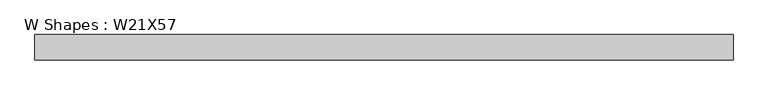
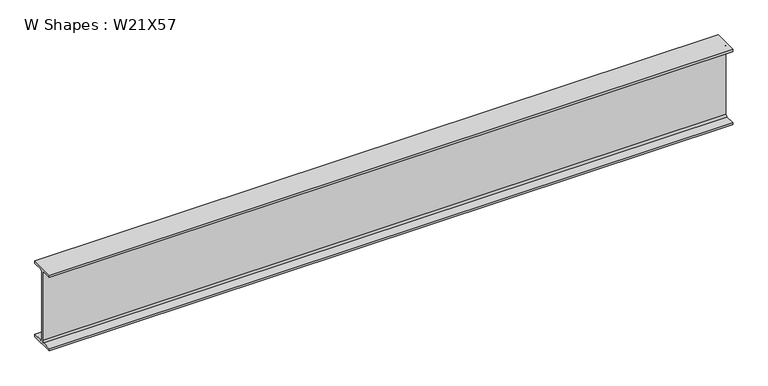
"""IFC4 building model written with IfcOpenShell, lengths in millimetres: beam geometry, W Shapes : W21X57."""

from ifc_helpers import new_model, si_unit, point, frame, frame_2d, origin, place, context, project, spatial, polyline, circle_curve, trimmed, segment, composite_curve, outline, extrude, source, transform, mapped, element, save


def w_shapes_w21x57_f1182905(model_context):
    return source(origin(), model_context, "Body", "SweptSolid", [
        extrude(outline(composite_curve([segment(polyline([(83.312, -251.46), (83.312, -267.97), (-83.312, -267.97), (-83.312, -251.46), (-17.907, -251.46)]), True, "CONTINUOUS"), segment(trimmed(circle_curve(frame_2d((-17.907, -238.76)), 12.7), [point((-17.907, -251.46))], [point((-5.207, -238.76))], True, "CARTESIAN"), True, "CONTINUOUS"), segment(polyline([(-5.207, -238.76), (-5.207, 238.76)]), True, "CONTINUOUS"), segment(trimmed(circle_curve(frame_2d((-17.907, 238.76)), 12.7), [point((-5.207, 238.76))], [point((-17.907, 251.46))], True, "CARTESIAN"), True, "CONTINUOUS"), segment(polyline([(-17.907, 251.46), (-83.312, 251.46), (-83.312, 267.97), (83.312, 267.97), (83.312, 251.46), (17.907, 251.46)]), True, "CONTINUOUS"), segment(trimmed(circle_curve(frame_2d((17.907, 238.76)), 12.7), [point((17.907, 251.46))], [point((5.207, 238.76))], True, "CARTESIAN"), True, "CONTINUOUS"), segment(polyline([(5.207, 238.76), (5.207, -238.76)]), True, "CONTINUOUS"), segment(trimmed(circle_curve(frame_2d((17.907, -238.76)), 12.7), [point((5.207, -238.76))], [point((17.907, -251.46))], True, "CARTESIAN"), True, "CONTINUOUS"), segment(polyline([(17.907, -251.46), (83.312, -251.46)]), True, "CONTINUOUS")], self_intersect=False)), frame((-2287.899694, 0.0, 0.0), z_axis=(1.0, 0.0, 0.0), x_axis=(0.0, 1.0, 0.0)), (0.0, 0.0, 1.0), 4575.799388),
    ])


if __name__ == "__main__":
    model = new_model("IFC4")
    model_context = context("Model", 3, world=origin())
    ifc_project = project(units=[si_unit("LENGTHUNIT", "METRE", prefix="MILLI")], contexts=[model_context])
    site = spatial("IfcSite", under=ifc_project)
    building = spatial("IfcBuilding", under=site)
    placement = place(None, origin())
    w_shapes_w21x57_shape = w_shapes_w21x57_f1182905(model_context)
    element("IfcBeam", 1, ObjectType="W Shapes : W21X57", at=placement, inside=building, context=model_context, shape_type="MappedRepresentation", body=[
        mapped(w_shapes_w21x57_shape, transform((0.0, 0.0, 0.0), x_axis=(1.0, 0.0, 0.0), y_axis=(0.0, 1.0, 0.0), z_axis=(0.0, 0.0, 1.0))),
    ])
    save(model, "model.ifc")
